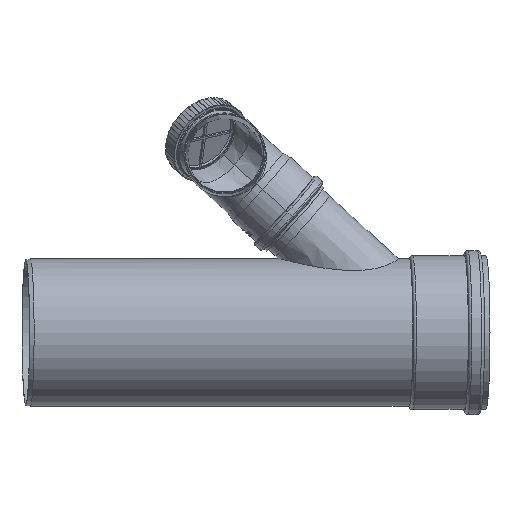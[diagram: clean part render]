
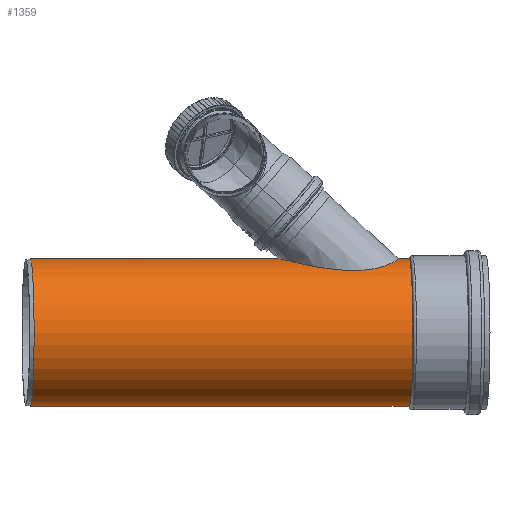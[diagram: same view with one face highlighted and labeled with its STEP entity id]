
A CAD part, front view. The second image highlights one B-rep face of the part: STEP entity #1359.
In plain terms, the highlighted cylindrical face has radius 100 mm (diameter 200 mm), a partial arc.
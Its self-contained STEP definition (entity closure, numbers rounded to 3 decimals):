
#341=CARTESIAN_POINT('',(100.,824.106,0.));
#386=CARTESIAN_POINT('',(0.,481.,0.));
#387=DIRECTION('',(0.,-1.,0.));
#388=DIRECTION('',(-1.,0.,0.));
#389=AXIS2_PLACEMENT_3D('',#386,#387,#388);
#394=DIRECTION('',(0.,1.,0.));
#395=VECTOR('',#394,343.106);
#396=CARTESIAN_POINT('',(100.,481.,0.));
#397=LINE('1107296853',#396,#395);
#401=CARTESIAN_POINT('',(100.,978.303,0.));
#402=CARTESIAN_POINT('',(100.,978.303,-3.586));
#403=CARTESIAN_POINT('',(99.616,977.633,-10.586));
#404=CARTESIAN_POINT('',(98.027,974.715,-20.564));
#405=CARTESIAN_POINT('',(95.642,969.864,-29.645));
#406=CARTESIAN_POINT('',(92.832,963.126,-37.437));
#407=CARTESIAN_POINT('',(89.992,954.452,-43.748));
#408=CARTESIAN_POINT('',(87.552,943.81,-48.379));
#409=CARTESIAN_POINT('',(85.939,931.427,-51.144));
#410=CARTESIAN_POINT('',(85.409,918.288,-52.011));
#411=CARTESIAN_POINT('',(85.766,906.009,-51.426));
#412=CARTESIAN_POINT('',(86.672,894.633,-49.895));
#413=CARTESIAN_POINT('',(87.88,884.412,-47.743));
#414=CARTESIAN_POINT('',(89.204,875.397,-45.229));
#415=CARTESIAN_POINT('',(90.56,867.356,-42.453));
#416=CARTESIAN_POINT('',(91.906,860.122,-39.46));
#417=CARTESIAN_POINT('',(93.226,853.526,-36.24));
#418=CARTESIAN_POINT('',(94.53,847.371,-32.698));
#419=CARTESIAN_POINT('',(95.757,841.844,-28.914));
#420=CARTESIAN_POINT('',(96.846,837.109,-25.027));
#421=CARTESIAN_POINT('',(97.81,833.033,-20.965));
#422=CARTESIAN_POINT('',(98.672,829.465,-16.478));
#423=CARTESIAN_POINT('',(99.394,826.533,-11.427));
#424=CARTESIAN_POINT('',(99.885,824.563,-5.82));
#425=CARTESIAN_POINT('',(100.,824.106,-1.971));
#426=CARTESIAN_POINT('',(100.,824.106,0.));
#431=DIRECTION('',(0.,1.,0.));
#432=VECTOR('',#431,17.202);
#433=CARTESIAN_POINT('',(100.,978.303,0.));
#434=LINE('1107296705',#433,#432);
#438=CARTESIAN_POINT('',(0.,995.504,0.));
#439=DIRECTION('',(0.,-1.,0.));
#440=DIRECTION('',(-1.,0.,0.));
#441=AXIS2_PLACEMENT_3D('',#438,#439,#440);
#446=DIRECTION('',(0.,1.,0.));
#447=VECTOR('',#446,514.504);
#448=CARTESIAN_POINT('',(-100.,481.,0.));
#449=LINE('1107296851',#448,#447);
#1234=CARTESIAN_POINT('',(-100.,995.504,0.));
#1235=CARTESIAN_POINT('',(100.,995.504,0.));
#1236=VERTEX_POINT('',#1234);
#1237=VERTEX_POINT('',#1235);
#1270=CARTESIAN_POINT('',(100.,978.303,0.));
#1271=VERTEX_POINT('',#1270);
#1274=VERTEX_POINT('',#341);
#1280=CARTESIAN_POINT('',(100.,481.,0.));
#1281=CARTESIAN_POINT('',(-100.,481.,0.));
#1282=VERTEX_POINT('',#1280);
#1283=VERTEX_POINT('',#1281);
#1344=CARTESIAN_POINT('',(0.,0.,0.));
#1345=DIRECTION('',(0.,-1.,0.));
#1346=DIRECTION('',(-1.,0.,0.));
#1347=AXIS2_PLACEMENT_3D('',#1344,#1345,#1346);
#1348=CYLINDRICAL_SURFACE('477',#1347,100.);
#1349=ORIENTED_EDGE('1107296848',*,*,#1335,.T.);
#1350=ORIENTED_EDGE('1107296853',*,*,#1303,.T.);
#1352=ORIENTED_EDGE('1107296753',*,*,#1351,.F.);
#1353=ORIENTED_EDGE('1107296705',*,*,#1299,.T.);
#1355=ORIENTED_EDGE('1503',*,*,#1354,.F.);
#1356=ORIENTED_EDGE('1107296851',*,*,#1295,.F.);
#1357=EDGE_LOOP('477',(#1349,#1350,#1352,#1353,#1355,#1356));
#1358=FACE_OUTER_BOUND('477',#1357,.F.);
#390=CIRCLE('1107296848',#389,100.);
#427=B_SPLINE_CURVE_WITH_KNOTS('1107296753',3,(#401,#402,#403,#404,#405,#406,
#407,#408,#409,#410,#411,#412,#413,#414,#415,#416,#417,#418,#419,#420,#421,#422,
#423,#424,#425,#426),.UNSPECIFIED.,.F.,.F.,(4,1,1,1,1,1,1,1,1,1,1,1,1,1,1,1,1,1,
1,1,1,1,1,4),(0.,0.043,0.087,0.13,
0.174,0.217,0.261,0.304,
0.348,0.391,0.435,0.478,
0.522,0.565,0.609,0.652,
0.696,0.739,0.783,0.826,
0.87,0.913,0.957,1.),.UNSPECIFIED.);
#442=CIRCLE('1503',#441,100.);
#1295=EDGE_CURVE('1107296851',#1283,#1236,#449,.T.);
#1299=EDGE_CURVE('1107296705',#1271,#1237,#434,.T.);
#1303=EDGE_CURVE('1107296853',#1282,#1274,#397,.T.);
#1335=EDGE_CURVE('1107296848',#1283,#1282,#390,.T.);
#1351=EDGE_CURVE('1107296753',#1271,#1274,#427,.T.);
#1354=EDGE_CURVE('1503',#1236,#1237,#442,.T.);
#1359=ADVANCED_FACE('477',(#1358),#1348,.T.);
